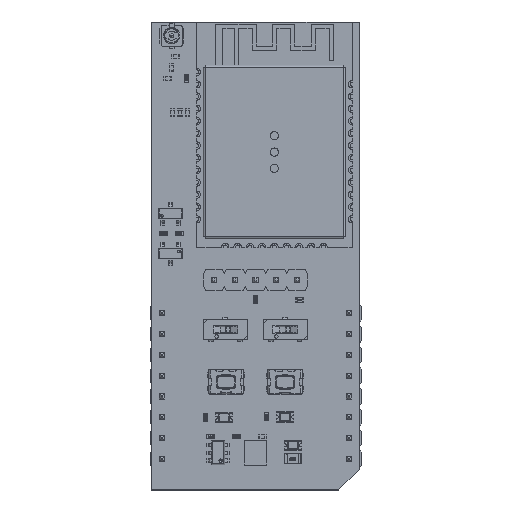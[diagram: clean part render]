
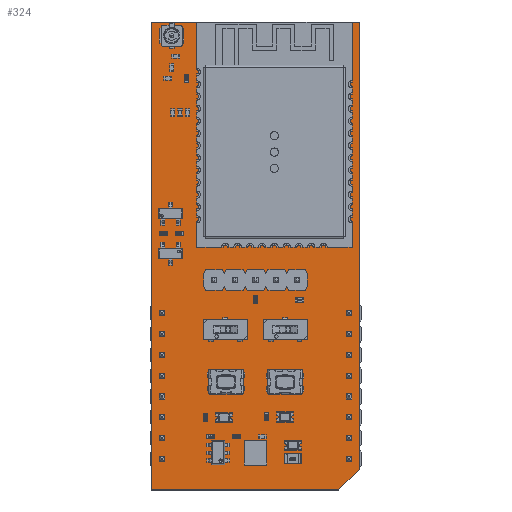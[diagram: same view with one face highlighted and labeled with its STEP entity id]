
A CAD part, top view. The second image highlights one B-rep face of the part: STEP entity #324.
In plain terms, the highlighted planar face has unit normal (0, 0, 1).
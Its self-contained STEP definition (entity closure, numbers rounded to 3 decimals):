
#163 = VERTEX_POINT('',#164);
#164 = CARTESIAN_POINT('',(-1.27,-3.81,0.));
#170 = EDGE_CURVE('',#163,#171,#173,.T.);
#171 = VERTEX_POINT('',#172);
#172 = CARTESIAN_POINT('',(21.59,-3.81,0.));
#173 = LINE('',#174,#175);
#174 = CARTESIAN_POINT('',(-1.27,-3.81,0.));
#175 = VECTOR('',#176,1.);
#176 = DIRECTION('',(1.,0.,0.));
#201 = EDGE_CURVE('',#171,#202,#204,.T.);
#202 = VERTEX_POINT('',#203);
#203 = CARTESIAN_POINT('',(24.13,-1.27,0.));
#204 = LINE('',#205,#206);
#205 = CARTESIAN_POINT('',(21.59,-3.81,0.));
#206 = VECTOR('',#207,1.);
#207 = DIRECTION('',(0.707,0.707,0.));
#232 = EDGE_CURVE('',#202,#233,#235,.T.);
#233 = VERTEX_POINT('',#234);
#234 = CARTESIAN_POINT('',(24.13,53.34,0.));
#235 = LINE('',#236,#237);
#236 = CARTESIAN_POINT('',(24.13,-1.27,0.));
#237 = VECTOR('',#238,1.);
#238 = DIRECTION('',(0.,1.,0.));
#263 = EDGE_CURVE('',#233,#264,#266,.T.);
#264 = VERTEX_POINT('',#265);
#265 = CARTESIAN_POINT('',(-1.27,53.34,0.));
#266 = LINE('',#267,#268);
#267 = CARTESIAN_POINT('',(24.13,53.34,0.));
#268 = VECTOR('',#269,1.);
#269 = DIRECTION('',(-1.,0.,0.));
#294 = EDGE_CURVE('',#264,#163,#295,.T.);
#295 = LINE('',#296,#297);
#296 = CARTESIAN_POINT('',(-1.27,53.34,0.));
#297 = VECTOR('',#298,1.);
#298 = DIRECTION('',(0.,-1.,0.));
#324 = ADVANCED_FACE('',(#325),#332,.F.);
#325 = FACE_BOUND('',#326,.T.);
#326 = EDGE_LOOP('',(#327,#328,#329,#330,#331));
#327 = ORIENTED_EDGE('',*,*,#170,.T.);
#328 = ORIENTED_EDGE('',*,*,#201,.T.);
#329 = ORIENTED_EDGE('',*,*,#232,.T.);
#330 = ORIENTED_EDGE('',*,*,#263,.T.);
#331 = ORIENTED_EDGE('',*,*,#294,.T.);
#332 = PLANE('',#333);
#333 = AXIS2_PLACEMENT_3D('',#334,#335,#336);
#334 = CARTESIAN_POINT('',(-1.27,-3.81,0.));
#335 = DIRECTION('',(0.,0.,-1.));
#336 = DIRECTION('',(-1.,0.,0.));
